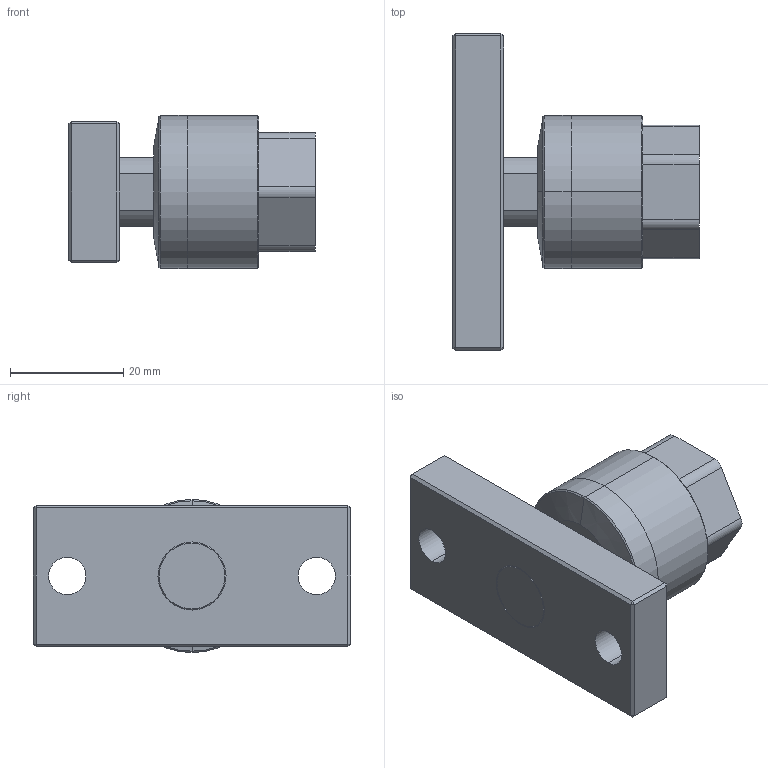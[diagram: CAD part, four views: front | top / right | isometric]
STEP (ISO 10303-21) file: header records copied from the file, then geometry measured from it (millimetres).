
FILE_DESCRIPTION (( 'STEP AP203' ), '1' );
FILE_NAME ('FCM12A-1.25-F.STEP', '2016-04-14T01:56:57', ( '' ), ( '' ), 'SwSTEP 2.0', 'SolidWorks 2014', '' );
FILE_SCHEMA (( 'CONFIG_CONTROL_DESIGN' ));
Length unit declared in the file: millimetre
Products named in the file (3): FCM12A-F; FCM12A-1.25(F); FCM12A-1.25-F
Assembly tree (2 placements, depth 2):
  FCM12A-1.25-F
    FCM12A-1.25(F)
    FCM12A-F
Bounding box: 43.5 x 56 x 27 mm (x, y, z)
Volume: 25637.1 mm3; surface area: 8876 mm2
Topology: 2 solids, 2 shells, 78 faces, 174 edges, 101 vertices
Faces by surface type: plane 44, cylinder 24, cone 10
Entity records: 2421 total; most frequent: DIRECTION 394, CARTESIAN_POINT 356, ORIENTED_EDGE 344, EDGE_CURVE 172, AXIS2_PLACEMENT_3D 139, VECTOR 116, LINE 116, VERTEX_POINT 101
